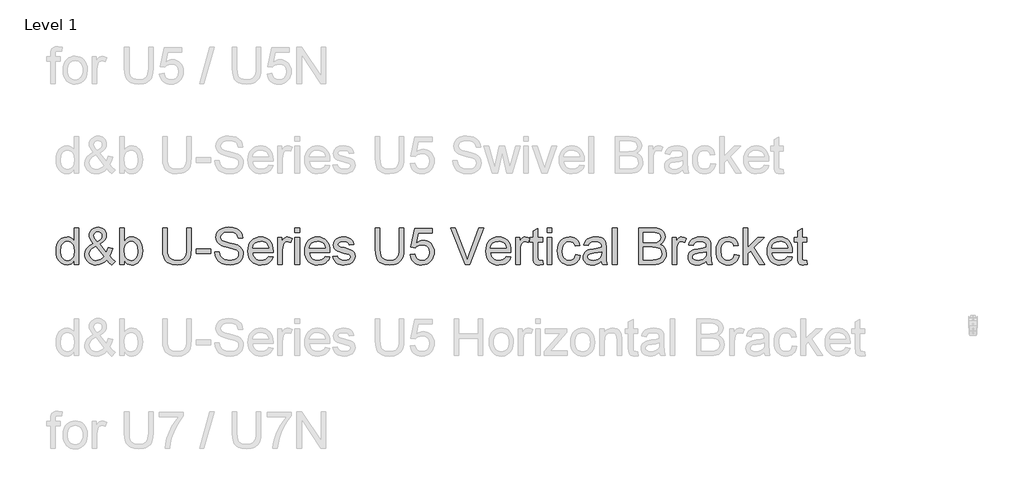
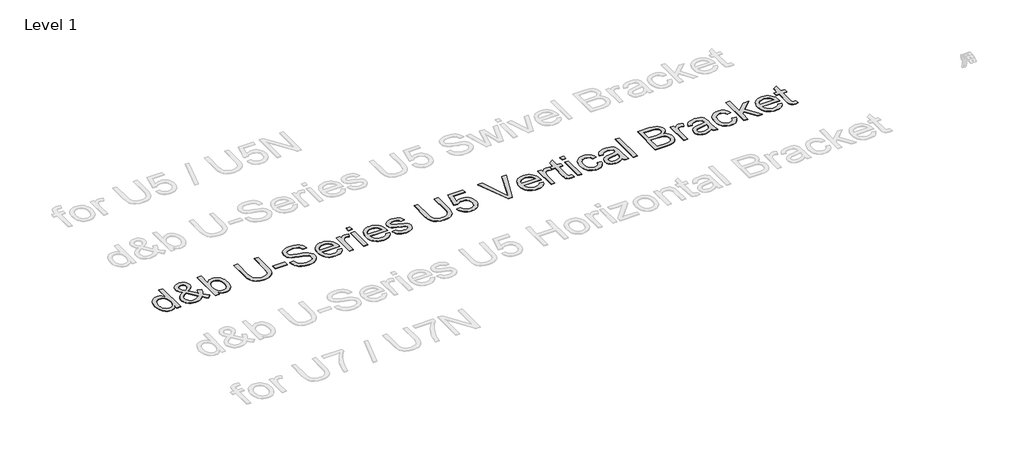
# One storey, part 7 of 29: 1 proxy.
"""IFC4 building model written with IfcOpenShell, lengths in millimetres."""

from ifc_helpers import new_model, si_unit, origin, origin_with_axes, place, context, project, spatial, polyline, outline, extrude, element, save

model = new_model("IFC4")

# Units and contexts
model_context = context("Model", 3, world=origin())
ifc_project = project(units=[si_unit("LENGTHUNIT", "METRE", prefix="MILLI")], contexts=[model_context])

# Site, building, storey
site = spatial("IfcSite", under=ifc_project)
building = spatial("IfcBuilding", under=site)
storey = spatial("IfcBuildingStorey", under=building, Name="Level 1", Elevation=0.0)

# Proxy
placement = place(None, origin())
element("IfcBuildingElementProxy", 1, Name="400mm Arial", ObjectType="400mm Arial", at=placement, inside=storey, context=model_context, shape_type="SweptSolid", body=[
    extrude(outline(polyline([(-20788.4119982, -4835.6363385), (-20788.4119982, -4788.2531375), (-20803.4399777, -4811.7301402), (-20821.6440051, -4828.4994278), (-20843.0240804, -4838.5610004), (-20867.5802036, -4841.9148579), (-20900.051921, -4837.0588156), (-20929.7767862, -4822.4906885), (-20954.9399147, -4799.2282837), (-20973.7264219, -4768.2894079), (-20985.4250694, -4730.9248599), (-20989.3246185, -4688.3854386), (-20985.7316377, -4646.3733147), (-20974.9526952, -4608.4324183), (-20957.0000539, -4576.7209903), (-20931.8859763, -4553.3972718), (-20901.5111863, -4539.049874), (-20867.7764073, -4534.2674081), (-20843.20189, -4537.6887106), (-20821.4723268, -4547.9526183), (-20803.0537016, -4563.6857049), (-20788.4119982, -4583.5145445), (-20788.4119982, -4433.8110979), (-20738.1838431, -4433.8110979), (-20738.1838431, -4835.6363385), (-20788.4119982, -4835.6363385)]), holes=[polyline([(-20939.0964634, -4688.1892348), (-20937.6801177, -4712.5460886), (-20933.4310807, -4733.6226612), (-20926.3493523, -4751.4189528), (-20916.4349325, -4765.9349632), (-20891.7377879, -4785.2487679), (-20877.8625053, -4790.0772191), (-20862.9694159, -4791.6867028), (-20848.0058157, -4790.1507955), (-20834.2133066, -4785.5430735), (-20810.1415614, -4767.1121855), (-20800.6348775, -4753.2031804), (-20793.844389, -4736.0506824), (-20788.4119982, -4692.0152076), (-20793.9424909, -4643.8717172), (-20800.8556067, -4625.336596), (-20810.5339688, -4610.4925575), (-20822.235682, -4599.1188724), (-20835.2188507, -4590.9948117), (-20849.4834751, -4586.1203753), (-20865.0295551, -4584.4955631), (-20880.2169501, -4586.0559959), (-20894.0922327, -4590.7372943), (-20906.6554028, -4598.5394583), (-20917.9064605, -4609.4624879), (-20927.1770868, -4623.7455063), (-20933.7989627, -4641.627637), (-20939.0964634, -4688.1892348)])]), origin_with_axes(), (0.0, 0.0, 1.0), 5.0),
    extrude(outline(polyline([(-20432.4003287, -4785.9967946), (-20457.9313392, -4810.4609473), (-20485.6696416, -4827.9353421), (-20515.664287, -4838.4199789), (-20547.9643262, -4841.9148579), (-20577.2722584, -4839.3274212), (-20603.3918801, -4831.5651111), (-20626.3231911, -4818.6279276), (-20646.0661915, -4800.5158707), (-20658.8991418, -4783.1457092), (-20668.0655348, -4764.7822662), (-20673.5653707, -4745.4255419), (-20675.3986493, -4725.0755362), (-20669.5002746, -4689.881492), (-20651.8051507, -4658.2681659), (-20622.3868538, -4630.2600833), (-20581.3189604, -4605.8817698), (-20603.2324646, -4577.5303307), (-20616.3903773, -4555.0650035), (-20622.975465, -4535.8860888), (-20625.1704942, -4517.3938872), (-20623.4414488, -4499.8397847), (-20618.2543127, -4483.4751673), (-20609.6090858, -4468.300035), (-20597.5057682, -4454.3143878), (-20582.784357, -4442.5973462), (-20566.2848495, -4434.2280308), (-20548.0072457, -4429.2064416), (-20527.9515456, -4427.5325785), (-20508.8032878, -4429.1328652), (-20491.4821772, -4433.9337252), (-20475.9882138, -4441.9351586), (-20462.3213977, -4453.1371654), (-20451.1623105, -4466.5832523), (-20443.1915339, -4481.3169262), (-20438.409068, -4497.3381871), (-20436.8149127, -4514.647035), (-20441.5360649, -4542.6305921), (-20455.6995218, -4568.5049591), (-20479.3052831, -4592.270136), (-20512.353349, -4613.9261227), (-20439.6598668, -4704.4741445), (-20427.2745063, -4678.5997775), (-20417.9793545, -4648.8503868), (-20367.7511994, -4659.7396939), (-20383.2022432, -4706.2645035), (-20403.2640747, -4742.4395664), (-20374.7164319, -4775.7451497), (-20342.6371219, -4803.2627229), (-20380.3082382, -4841.9148579), (-20405.9373505, -4818.4685121), (-20432.4003287, -4785.9967946)]), holes=[polyline([(-20537.7617322, -4582.2392202), (-20511.4949577, -4565.5741659), (-20496.4608468, -4551.091878), (-20489.3975125, -4537.0019976), (-20487.0430678, -4521.5141656), (-20490.1455392, -4503.9661944), (-20499.4529537, -4489.9744158), (-20513.4202068, -4480.8141542), (-20530.5021941, -4477.7607336), (-20547.9520634, -4480.7896287), (-20562.2381476, -4489.876314), (-20571.7662912, -4503.3285323), (-20574.9423391, -4519.4540264), (-20570.6258571, -4537.8481261), (-20557.578309, -4558.3023651), (-20537.7617322, -4582.2392202)]), polyline([(-20466.0492686, -4749.7972063), (-20555.7143735, -4637.8629779), (-20589.9641873, -4659.7151684), (-20610.8966728, -4679.9486782), (-20621.6020389, -4699.2747456), (-20625.1704942, -4718.4046094), (-20620.2899264, -4742.0962099), (-20605.648223, -4766.6707271), (-20594.8692805, -4777.6152165), (-20582.0547244, -4785.4327089), (-20567.2045545, -4790.1232043), (-20550.3187709, -4791.6867028), (-20527.5959264, -4788.7681723), (-20504.1618433, -4780.0125808), (-20482.7388484, -4766.6216762), (-20466.0492686, -4749.7972063)])]), origin_with_axes(), (0.0, 0.0, 1.0), 5.0),
    extrude(outline(polyline([(-20242.1808118, -4835.6363385), (-20292.4089668, -4835.6363385), (-20292.4089668, -4433.8110979), (-20242.1808118, -4433.8110979), (-20242.1808118, -4582.8278314), (-20225.6629102, -4561.5826462), (-20207.011293, -4546.4075139), (-20186.2259603, -4537.3024345), (-20163.306912, -4534.2674081), (-20137.432545, -4537.0019976), (-20112.9806551, -4545.2057661), (-20091.3491937, -4558.3636787), (-20073.9361126, -4575.9607008), (-20060.2876906, -4597.8251541), (-20049.9502065, -4623.7853602), (-20043.4386952, -4652.7621987), (-20041.2681915, -4683.676549), (-20043.5153373, -4719.3488398), (-20050.2567749, -4750.729174), (-20061.4925041, -4777.8175516), (-20077.2225251, -4800.6139726), (-20096.1040685, -4818.6831099), (-20116.7943651, -4831.5896366), (-20139.2934148, -4839.3335526), (-20163.6012176, -4841.9148579), (-20187.274424, -4838.5855258), (-20208.2620918, -4828.5975297), (-20226.5642211, -4811.9508694), (-20242.1808118, -4788.645545), (-20242.1808118, -4835.6363385)]), holes=[polyline([(-20242.1808118, -4686.0309938), (-20238.7472465, -4727.9204903), (-20228.4465506, -4756.2719294), (-20216.2757879, -4771.7658928), (-20202.1307252, -4782.8330095), (-20186.0113625, -4789.4732795), (-20167.9176997, -4791.6867028), (-20152.8958515, -4790.0557593), (-20138.9285984, -4785.1629288), (-20126.0159404, -4777.0082112), (-20114.1578774, -4765.5916066), (-20104.2434577, -4750.9437719), (-20097.1617293, -4733.0953637), (-20092.9126922, -4712.0463822), (-20091.4963465, -4687.7968274), (-20096.9287373, -4641.8361035), (-20103.7192258, -4624.0428776), (-20113.2259097, -4609.7077425), (-20124.6578427, -4598.677414), (-20137.2240785, -4590.798608), (-20150.9246172, -4586.0713243), (-20165.7594586, -4584.4955631), (-20180.7813068, -4586.1265066), (-20194.7485599, -4591.0193372), (-20207.6612179, -4599.1740547), (-20219.5192809, -4610.5906593), (-20229.4337006, -4625.0913413), (-20236.515429, -4642.498291), (-20240.7644661, -4662.8115085), (-20242.1808118, -4686.0309938)])]), origin_with_axes(), (0.0, 0.0, 1.0), 5.0),
    extrude(outline(polyline([(-19557.8221989, -4433.8110979), (-19507.5940438, -4433.8110979), (-19507.5940438, -4665.6258058), (-19511.0030836, -4719.9129256), (-19521.2302031, -4761.7165829), (-19529.4155775, -4778.6698116), (-19540.3355414, -4793.9675712), (-19570.3792376, -4819.5966835), (-19589.5213641, -4829.3608848), (-19611.4348683, -4836.3353143), (-19663.5760097, -4841.9148579), (-19714.576717, -4837.0588156), (-19755.3503048, -4822.4906885), (-19771.9049946, -4811.6902863), (-19785.9090359, -4798.7132489), (-19797.3624287, -4783.5595764), (-19806.2651729, -4766.2292688), (-19817.706303, -4722.6597778), (-19821.520013, -4665.6258058), (-19821.520013, -4433.8110979), (-19771.2918579, -4433.8110979), (-19771.2918579, -4663.8599722), (-19768.8147858, -4708.999093), (-19761.3835695, -4740.4284782), (-19747.9190885, -4762.1948295), (-19727.3422222, -4778.3448491), (-19700.5113621, -4788.3512394), (-19668.2848993, -4791.6867028), (-19640.6017791, -4790.0373652), (-19617.1983529, -4785.0893524), (-19598.0746205, -4776.8426643), (-19583.230582, -4765.297301), (-19572.1144144, -4749.0614423), (-19564.1742947, -4726.7432679), (-19559.4102228, -4698.3427779), (-19557.8221989, -4663.8599722), (-19557.8221989, -4433.8110979)])), origin_with_axes(), (0.0, 0.0, 1.0), 5.0),
    extrude(outline(polyline([(-19451.0873693, -4716.3444702), (-19451.0873693, -4666.1163151), (-19294.1243847, -4666.1163151), (-19294.1243847, -4716.3444702), (-19451.0873693, -4716.3444702)])), origin_with_axes(), (0.0, 0.0, 1.0), 5.0),
    extrude(outline(polyline([(-19250.174749, -4697.5089121), (-19199.946594, -4697.5089121), (-19194.1831094, -4725.3821046), (-19183.7597862, -4747.7861181), (-19167.499402, -4765.5670812), (-19144.2247344, -4779.5711224), (-19115.7751935, -4788.6578077), (-19083.9901891, -4791.6867028), (-19056.006632, -4789.3935717), (-19031.5056911, -4782.5141784), (-19011.6523261, -4771.6248713), (-18997.6114966, -4757.301999), (-18989.2605753, -4740.8576738), (-18986.4769349, -4723.6040082), (-18988.5615995, -4706.7918011), (-18994.8155934, -4692.2604623), (-19007.519785, -4679.862839), (-19028.9550426, -4669.4517786), (-19102.0899832, -4650.2728639), (-19150.0985836, -4637.580935), (-19180.8167302, -4625.5021429), (-19205.8204431, -4608.6040966), (-19223.5400926, -4588.1253322), (-19234.0983058, -4564.5073081), (-19237.6177103, -4538.1914827), (-19233.26444, -4508.7731858), (-19220.2046292, -4481.3414517), (-19198.7816343, -4458.0913096), (-19169.338812, -4441.2177887), (-19133.997615, -4430.9538811), (-19094.8794961, -4427.5325785), (-19052.4994903, -4431.1132966), (-19015.4169852, -4441.8554509), (-18984.956356, -4459.5383121), (-18962.4419779, -4483.9411511), (-18948.1926819, -4513.543389), (-18942.5272992, -4546.8244468), (-18992.7554543, -4546.8244468), (-19001.9770296, -4516.854327), (-19010.3402136, -4504.996264), (-19021.2049952, -4495.2228656), (-19051.2486915, -4482.1262666), (-19092.9174588, -4477.7607336), (-19135.5672448, -4482.0772157), (-19151.8705486, -4487.4728183), (-19164.8261262, -4495.0266619), (-19181.7486979, -4514.0829493), (-19187.3895552, -4536.7199547), (-19183.3919042, -4556.0214967), (-19171.3989511, -4571.5461169), (-19143.047512, -4585.4275309), (-19089.3857917, -4599.6032504), (-19034.0072887, -4613.0677314), (-19000.5055016, -4624.8154298), (-18971.8720197, -4643.0378513), (-18951.8960273, -4665.5277039), (-18940.1605917, -4692.0397331), (-18936.2487798, -4722.328684), (-18940.7492029, -4753.2920853), (-18954.2504721, -4782.4160765), (-18976.2007645, -4807.4811031), (-19006.048257, -4826.2676104), (-19041.941277, -4838.003046), (-19082.0281518, -4841.9148579), (-19131.2385, -4837.6964777), (-19171.7423077, -4825.041337), (-19204.0055586, -4803.9003851), (-19228.4942368, -4774.2245708), (-19244.2150607, -4738.0740334), (-19250.174749, -4697.5089121)])), origin_with_axes(), (0.0, 0.0, 1.0), 5.0),
    extrude(outline(polyline([(-18660.5825381, -4747.7370671), (-18611.3354017, -4754.0155865), (-18618.8861796, -4773.7401928), (-18629.0795766, -4791.1226171), (-18641.9155925, -4806.1628593), (-18657.3942275, -4818.8609195), (-18675.3560659, -4828.9470176), (-18695.6416922, -4836.1513733), (-18743.1843087, -4841.9148579), (-18774.3500451, -4839.4285887), (-18802.1190044, -4831.9697813), (-18826.4911866, -4819.5384355), (-18847.4665916, -4802.1345515), (-18864.3339811, -4780.2425071), (-18876.3821165, -4754.3466803), (-18883.6109977, -4724.4470712), (-18886.0206247, -4690.5436796), (-18883.5864722, -4655.4906568), (-18876.2840146, -4624.5947006), (-18864.1132519, -4597.8558109), (-18847.0741842, -4575.2739878), (-18826.1539614, -4557.3336092), (-18802.3397336, -4544.519053), (-18775.6315007, -4536.8303193), (-18746.0292628, -4534.2674081), (-18717.3804525, -4536.8241879), (-18691.472363, -4544.4945275), (-18668.3049943, -4557.2784269), (-18647.8783465, -4575.1758859), (-18631.2040951, -4597.7086581), (-18619.2939155, -4624.3984969), (-18612.1478077, -4655.2454022), (-18609.7657718, -4690.249374), (-18610.0600774, -4703.7874314), (-18835.7924697, -4703.7874314), (-18832.8831362, -4723.8308688), (-18827.0981918, -4741.3849713), (-18818.4376365, -4756.449739), (-18806.9014703, -4769.0251719), (-18793.1273553, -4778.9395917), (-18777.7529536, -4786.0213201), (-18742.2032901, -4791.6867028), (-18715.4705318, -4789.0624779), (-18692.9561537, -4781.1898032), (-18674.6601558, -4767.5781694), (-18660.5825381, -4747.7370671)]), holes=[polyline([(-18835.7924697, -4653.5592764), (-18659.9939269, -4653.5592764), (-18666.7874811, -4627.0227218), (-18680.1048093, -4608.0400108), (-18693.8022823, -4597.739315), (-18709.3882161, -4590.3816751), (-18726.8626109, -4585.9670911), (-18746.2254666, -4584.4955631), (-18780.0828729, -4589.1921899), (-18808.0786927, -4603.2820704), (-18827.5396502, -4625.2446255), (-18835.7924697, -4653.5592764)])]), origin_with_axes(), (0.0, 0.0, 1.0), 5.0),
    extrude(outline(polyline([(-18559.5376168, -4835.6363385), (-18559.5376168, -4540.5459274), (-18515.5879811, -4540.5459274), (-18515.5879811, -4584.2012575), (-18499.3521223, -4558.8909763), (-18484.3915879, -4543.9794927), (-18469.3820025, -4536.6954292), (-18452.998991, -4534.2674081), (-18427.9830153, -4538.1424317), (-18402.5746321, -4549.7675028), (-18419.3500511, -4594.796259), (-18437.0083869, -4587.0707371), (-18454.6667227, -4584.4955631), (-18469.6640453, -4586.9726352), (-18483.0672127, -4594.4038515), (-18493.8952061, -4606.2251263), (-18501.1670069, -4621.8723738), (-18507.273848, -4649.9295073), (-18509.3094617, -4680.5372893), (-18509.3094617, -4835.6363385), (-18559.5376168, -4835.6363385)])), origin_with_axes(), (0.0, 0.0, 1.0), 5.0),
    extrude(outline(polyline([(-18371.1820352, -4484.039253), (-18371.1820352, -4433.8110979), (-18320.9538802, -4433.8110979), (-18320.9538802, -4484.039253), (-18371.1820352, -4484.039253)])), origin_with_axes(), (0.0, 0.0, 1.0), 5.0),
    extrude(outline(polyline([(-18371.1820352, -4835.6363385), (-18371.1820352, -4540.5459274), (-18320.9538802, -4540.5459274), (-18320.9538802, -4835.6363385), (-18371.1820352, -4835.6363385)])), origin_with_axes(), (0.0, 0.0, 1.0), 5.0),
    extrude(outline(polyline([(-18039.009119, -4747.7370671), (-17989.7619826, -4754.0155865), (-17997.3127606, -4773.7401928), (-18007.5061575, -4791.1226171), (-18020.3421735, -4806.1628593), (-18035.8208084, -4818.8609195), (-18053.7826468, -4828.9470176), (-18074.0682732, -4836.1513733), (-18121.6108897, -4841.9148579), (-18152.7766261, -4839.4285887), (-18180.5455853, -4831.9697813), (-18204.9177675, -4819.5384355), (-18225.8931726, -4802.1345515), (-18242.7605621, -4780.2425071), (-18254.8086974, -4754.3466803), (-18262.0375786, -4724.4470712), (-18264.4472057, -4690.5436796), (-18262.0130532, -4655.4906568), (-18254.7105956, -4624.5947006), (-18242.5398329, -4597.8558109), (-18225.5007651, -4575.2739878), (-18204.5805423, -4557.3336092), (-18180.7663145, -4544.519053), (-18154.0580817, -4536.8303193), (-18124.4558438, -4534.2674081), (-18095.8070334, -4536.8241879), (-18069.8989439, -4544.4945275), (-18046.7315753, -4557.2784269), (-18026.3049275, -4575.1758859), (-18009.630676, -4597.7086581), (-17997.7204965, -4624.3984969), (-17990.5743887, -4655.2454022), (-17988.1923528, -4690.249374), (-17988.4866584, -4703.7874314), (-18214.2190506, -4703.7874314), (-18211.3097172, -4723.8308688), (-18205.5247728, -4741.3849713), (-18196.8642175, -4756.449739), (-18185.3280513, -4769.0251719), (-18171.5539362, -4778.9395917), (-18156.1795345, -4786.0213201), (-18120.629871, -4791.6867028), (-18093.8971127, -4789.0624779), (-18071.3827346, -4781.1898032), (-18053.0867367, -4767.5781694), (-18039.009119, -4747.7370671)]), holes=[polyline([(-18214.2190506, -4653.5592764), (-18038.4205079, -4653.5592764), (-18045.214062, -4627.0227218), (-18058.5313903, -4608.0400108), (-18072.2288632, -4597.739315), (-18087.8147971, -4590.3816751), (-18105.2891918, -4585.9670911), (-18124.6520475, -4584.4955631), (-18158.5094538, -4589.1921899), (-18186.5052736, -4603.2820704), (-18205.9662312, -4625.2446255), (-18214.2190506, -4653.5592764)])]), origin_with_axes(), (0.0, 0.0, 1.0), 5.0),
    extrude(outline(polyline([(-17956.7997559, -4747.7370671), (-17906.5716008, -4741.4585477), (-17898.6498752, -4762.9428563), (-17883.3214587, -4778.7372566), (-17860.4882495, -4788.4493413), (-17830.0521458, -4791.6867028), (-17799.983924, -4788.7191214), (-17778.8429721, -4779.8163771), (-17766.3349842, -4766.9159818), (-17762.1656549, -4751.9554473), (-17766.3595097, -4739.1531539), (-17778.9410739, -4729.3920183), (-17830.640757, -4715.069146), (-17906.2772952, -4690.4946287), (-17925.4194217, -4678.1460564), (-17939.2885729, -4661.7998331), (-17947.7130706, -4642.498291), (-17950.5212365, -4621.2837627), (-17948.2648936, -4601.8228051), (-17941.4958649, -4583.857901), (-17930.827287, -4568.1002889), (-17916.8722966, -4555.2612073), (-17884.9401395, -4540.3987746), (-17864.0567049, -4535.8002497), (-17841.7262678, -4534.2674081), (-17809.0338211, -4536.7322174), (-17780.6088056, -4544.1266455), (-17757.751071, -4555.7271911), (-17741.7604669, -4570.8103529), (-17731.1654655, -4590.4920397), (-17724.4945386, -4615.8881601), (-17774.7226937, -4622.1666794), (-17781.0625268, -4606.3600164), (-17793.6073028, -4594.4529025), (-17812.4796492, -4586.984898), (-17837.8021932, -4584.4955631), (-17866.6441416, -4586.8745334), (-17885.8721072, -4594.0114441), (-17896.6878378, -4604.3121399), (-17900.2930814, -4616.1824657), (-17894.3088676, -4630.7996436), (-17875.5714113, -4641.8851544), (-17832.3084887, -4652.5782577), (-17758.5849369, -4676.2208073), (-17739.1117166, -4687.5270473), (-17724.3473858, -4703.0026165), (-17715.0399714, -4722.696566), (-17711.9374999, -4746.6579466), (-17715.5795316, -4771.4286676), (-17726.5056269, -4794.7278606), (-17744.2988527, -4814.7283785), (-17768.5422762, -4829.6030738), (-17797.825683, -4838.8369119), (-17830.7388588, -4841.9148579), (-17857.7720541, -4840.4310672), (-17881.3839468, -4835.979695), (-17901.574537, -4828.5607415), (-17918.3438246, -4818.1742065), (-17932.0412976, -4804.869141), (-17943.0164438, -4788.6945959), (-17951.2692632, -4769.6505713), (-17956.7997559, -4747.7370671)])), origin_with_axes(), (0.0, 0.0, 1.0), 5.0),
    extrude(outline(polyline([(-17228.4915073, -4433.8110979), (-17178.2633522, -4433.8110979), (-17178.2633522, -4665.6258058), (-17181.672392, -4719.9129256), (-17191.8995115, -4761.7165829), (-17200.0848859, -4778.6698116), (-17211.0048498, -4793.9675712), (-17241.048546, -4819.5966835), (-17260.1906725, -4829.3608848), (-17282.1041767, -4836.3353143), (-17334.2453182, -4841.9148579), (-17385.2460254, -4837.0588156), (-17426.0196132, -4822.4906885), (-17442.574303, -4811.6902863), (-17456.5783443, -4798.7132489), (-17468.0317371, -4783.5595764), (-17476.9344814, -4766.2292688), (-17488.3756114, -4722.6597778), (-17492.1893214, -4665.6258058), (-17492.1893214, -4433.8110979), (-17441.9611663, -4433.8110979), (-17441.9611663, -4663.8599722), (-17439.4840942, -4708.999093), (-17432.0528779, -4740.4284782), (-17418.5883969, -4762.1948295), (-17398.0115307, -4778.3448491), (-17371.1806705, -4788.3512394), (-17338.9542077, -4791.6867028), (-17311.2710876, -4790.0373652), (-17287.8676613, -4785.0893524), (-17268.7439289, -4776.8426643), (-17253.8998904, -4765.297301), (-17242.7837228, -4749.0614423), (-17234.8436031, -4726.7432679), (-17230.0795312, -4698.3427779), (-17228.4915073, -4663.8599722), (-17228.4915073, -4433.8110979)])), origin_with_axes(), (0.0, 0.0, 1.0), 5.0),
    extrude(outline(polyline([(-17109.199639, -4728.901509), (-17058.9714839, -4722.6229896), (-17049.7499086, -4752.7770505), (-17033.6612026, -4774.3717236), (-17010.7789425, -4787.357958), (-16981.1767046, -4791.6867028), (-16962.0468409, -4790.1814523), (-16945.1733201, -4785.6657008), (-16930.5561421, -4778.1394483), (-16918.1953071, -4767.6026949), (-16908.3667264, -4754.5766066), (-16901.3463117, -4739.5823496), (-16895.7299799, -4703.6893296), (-16900.9906924, -4669.8932369), (-16907.5665831, -4655.9750348), (-16916.77283, -4644.0433954), (-16928.6400901, -4634.4723322), (-16943.19902, -4627.6358584), (-16980.3918897, -4622.1666794), (-17004.7579405, -4624.3494459), (-17024.4886782, -4630.8977455), (-17040.2462903, -4640.9286612), (-17052.6929645, -4653.5592764), (-17102.9211196, -4647.280757), (-17058.9714839, -4440.0896173), (-16864.337383, -4440.0896173), (-16864.337383, -4490.3177724), (-17018.3573116, -4490.3177724), (-17039.939722, -4600.9766765), (-17022.2139412, -4588.272485), (-17004.0589647, -4579.1980624), (-16985.4747926, -4573.7534089), (-16966.4614248, -4571.9385244), (-16941.9972722, -4574.1887359), (-16919.5196823, -4580.9393705), (-16899.0286551, -4592.1904282), (-16880.5241908, -4607.941909), (-16865.2019057, -4627.2311882), (-16854.2574163, -4649.0956415), (-16847.6907227, -4673.5352687), (-16845.5018248, -4700.5500699), (-16847.4699935, -4726.5715897), (-16853.3744995, -4750.778225), (-16863.2153429, -4773.1699757), (-16876.9925236, -4793.746842), (-16897.8636955, -4814.8203489), (-16922.2174836, -4829.8728539), (-16950.0538879, -4838.9043569), (-16981.3729084, -4841.9148579), (-17007.2932606, -4839.9804117), (-17030.7058839, -4834.1770733), (-17051.6107783, -4824.5048425), (-17070.0079438, -4810.9637194), (-17085.3149004, -4794.2281543), (-17096.9491685, -4774.9725975), (-17104.910748, -4753.1970491), (-17109.199639, -4728.901509)])), origin_with_axes(), (0.0, 0.0, 1.0), 5.0),
    extrude(outline(polyline([(-16507.1484911, -4835.6363385), (-16666.9564298, -4433.8110979), (-16613.1966076, -4433.8110979), (-16506.1674725, -4723.3097026), (-16484.4869602, -4788.5474431), (-16463.1007536, -4723.3097026), (-16355.7773128, -4433.8110979), (-16302.1155925, -4433.8110979), (-16455.3507062, -4835.6363385), (-16507.1484911, -4835.6363385)])), origin_with_axes(), (0.0, 0.0, 1.0), 5.0),
    extrude(outline(polyline([(-16054.9969936, -4747.7370671), (-16005.7498572, -4754.0155865), (-16013.3006351, -4773.7401928), (-16023.4940321, -4791.1226171), (-16036.330048, -4806.1628593), (-16051.808683, -4818.8609195), (-16069.7705214, -4828.9470176), (-16090.0561477, -4836.1513733), (-16137.5987642, -4841.9148579), (-16168.7645006, -4839.4285887), (-16196.5334599, -4831.9697813), (-16220.9056421, -4819.5384355), (-16241.8810471, -4802.1345515), (-16258.7484366, -4780.2425071), (-16270.796572, -4754.3466803), (-16278.0254532, -4724.4470712), (-16280.4350802, -4690.5436796), (-16278.0009277, -4655.4906568), (-16270.6984701, -4624.5947006), (-16258.5277074, -4597.8558109), (-16241.4886397, -4575.2739878), (-16220.5684169, -4557.3336092), (-16196.7541891, -4544.519053), (-16170.0459562, -4536.8303193), (-16140.4437183, -4534.2674081), (-16111.794908, -4536.8241879), (-16085.8868185, -4544.4945275), (-16062.7194498, -4557.2784269), (-16042.292802, -4575.1758859), (-16025.6185506, -4597.7086581), (-16013.708371, -4624.3984969), (-16006.5622632, -4655.2454022), (-16004.1802273, -4690.249374), (-16004.4745329, -4703.7874314), (-16230.2069252, -4703.7874314), (-16227.2975917, -4723.8308688), (-16221.5126473, -4741.3849713), (-16212.852092, -4756.449739), (-16201.3159258, -4769.0251719), (-16187.5418108, -4778.9395917), (-16172.1674091, -4786.0213201), (-16136.6177456, -4791.6867028), (-16109.8849873, -4789.0624779), (-16087.3706092, -4781.1898032), (-16069.0746113, -4767.5781694), (-16054.9969936, -4747.7370671)]), holes=[polyline([(-16230.2069252, -4653.5592764), (-16054.4083824, -4653.5592764), (-16061.2019366, -4627.0227218), (-16074.5192648, -4608.0400108), (-16088.2167378, -4597.739315), (-16103.8026716, -4590.3816751), (-16121.2770664, -4585.9670911), (-16140.6399221, -4584.4955631), (-16174.4973284, -4589.1921899), (-16202.4931482, -4603.2820704), (-16221.9541057, -4625.2446255), (-16230.2069252, -4653.5592764)])]), origin_with_axes(), (0.0, 0.0, 1.0), 5.0),
    extrude(outline(polyline([(-15953.9520723, -4835.6363385), (-15953.9520723, -4540.5459274), (-15910.0024366, -4540.5459274), (-15910.0024366, -4584.2012575), (-15893.7665778, -4558.8909763), (-15878.8060434, -4543.9794927), (-15863.796458, -4536.6954292), (-15847.4134464, -4534.2674081), (-15822.3974708, -4538.1424317), (-15796.9890876, -4549.7675028), (-15813.7645066, -4594.796259), (-15831.4228424, -4587.0707371), (-15849.0811782, -4584.4955631), (-15864.0785008, -4586.9726352), (-15877.4816682, -4594.4038515), (-15888.3096616, -4606.2251263), (-15895.5814623, -4621.8723738), (-15901.6883035, -4649.9295073), (-15903.7239172, -4680.5372893), (-15903.7239172, -4835.6363385), (-15953.9520723, -4835.6363385)])), origin_with_axes(), (0.0, 0.0, 1.0), 5.0),
    extrude(outline(polyline([(-15658.8616612, -4793.746842), (-15652.5831418, -4837.1078665), (-15690.1561562, -4841.9148579), (-15714.2646897, -4839.8301933), (-15732.2418565, -4833.5761993), (-15744.9460481, -4823.9376911), (-15753.2356557, -4811.6994834), (-15757.7973924, -4790.6811587), (-15759.3179713, -4754.7022996), (-15759.3179713, -4590.7740825), (-15796.9890876, -4590.7740825), (-15796.9890876, -4540.5459274), (-15759.3179713, -4540.5459274), (-15759.3179713, -4468.8334639), (-15709.0898163, -4439.3048024), (-15709.0898163, -4540.5459274), (-15658.8616612, -4540.5459274), (-15658.8616612, -4590.7740825), (-15709.0898163, -4590.7740825), (-15709.0898163, -4753.2307716), (-15706.4410659, -4779.1296641), (-15697.8571527, -4788.3021885), (-15680.7383772, -4791.6867028), (-15658.8616612, -4793.746842)])), origin_with_axes(), (0.0, 0.0, 1.0), 5.0),
    extrude(outline(polyline([(-15608.6335061, -4484.039253), (-15608.6335061, -4433.8110979), (-15558.405351, -4433.8110979), (-15558.405351, -4484.039253), (-15608.6335061, -4484.039253)])), origin_with_axes(), (0.0, 0.0, 1.0), 5.0),
    extrude(outline(polyline([(-15608.6335061, -4835.6363385), (-15608.6335061, -4540.5459274), (-15558.405351, -4540.5459274), (-15558.405351, -4835.6363385), (-15608.6335061, -4835.6363385)])), origin_with_axes(), (0.0, 0.0, 1.0), 5.0),
    extrude(outline(polyline([(-15294.7075369, -4728.901509), (-15244.4793818, -4735.1800284), (-15249.9424294, -4758.8808259), (-15258.4834231, -4779.8531653), (-15270.1023628, -4798.0970466), (-15284.7992485, -4813.6124697), (-15301.9548122, -4825.9947646), (-15320.9497859, -4834.8392609), (-15341.7841695, -4840.1459586), (-15364.4579632, -4841.9148579), (-15392.628527, -4839.4469828), (-15417.8866916, -4832.0433577), (-15440.2324571, -4819.7039824), (-15459.6658235, -4802.4288571), (-15475.3958445, -4780.542944), (-15486.6315738, -4754.3712058), (-15493.3730113, -4723.9136423), (-15495.6201572, -4689.1702535), (-15491.7819217, -4644.4725911), (-15480.2672153, -4605.734617), (-15460.8920968, -4574.4523847), (-15433.4726255, -4552.1219476), (-15400.6698142, -4538.7310429), (-15365.1446762, -4534.2674081), (-15342.8602244, -4535.8002497), (-15322.7033567, -4540.3987746), (-15304.6740733, -4548.0629829), (-15288.772374, -4558.7928744), (-15275.2680391, -4572.3431946), (-15264.4308487, -4588.4686887), (-15256.2608027, -4607.1693568), (-15250.7579012, -4628.4451988), (-15300.9860563, -4634.7237182), (-15310.097267, -4612.810214), (-15324.2852493, -4597.1016528), (-15342.7651882, -4587.6470856), (-15364.7522688, -4584.4955631), (-15381.8189277, -4586.0467989), (-15397.2117235, -4590.7005061), (-15410.9306562, -4598.4566849), (-15422.9757259, -4609.3153351), (-15432.7828467, -4623.5278428), (-15439.7879331, -4641.3455941), (-15443.9909849, -4662.768589), (-15445.3920021, -4687.7968274), (-15439.9105604, -4734.87346), (-15433.0587582, -4752.810773), (-15423.4662352, -4767.0140837), (-15411.6602888, -4777.8083546), (-15398.1682167, -4785.518548), (-15382.9900187, -4790.1446641), (-15366.1256949, -4791.6867028), (-15340.1164378, -4787.8362046), (-15318.7915448, -4776.28471), (-15303.2791874, -4756.7379133), (-15294.7075369, -4728.901509)])), origin_with_axes(), (0.0, 0.0, 1.0), 5.0),
    extrude(outline(polyline([(-15012.1741646, -4797.9652222), (-15036.1723334, -4818.5420885), (-15060.8817408, -4832.0065695), (-15086.8664724, -4839.4377858), (-15114.6906139, -4841.9148579), (-15137.0547735, -4840.4249358), (-15156.6659496, -4835.9551696), (-15173.524142, -4828.5055592), (-15187.6293508, -4818.0761046), (-15198.7669782, -4805.3289935), (-15206.7224264, -4790.9264134), (-15211.4956953, -4774.8683643), (-15213.0867849, -4757.1548462), (-15210.6832892, -4736.3327253), (-15203.4728021, -4717.4235907), (-15192.3505031, -4701.2367829), (-15178.2115718, -4688.5816423), (-15161.5955683, -4679.0167104), (-15143.042053, -4672.1005289), (-15099.5829267, -4664.5466853), (-15048.2266001, -4656.6004342), (-15012.4684702, -4647.280757), (-15012.1741646, -4636.0971443), (-15015.6322554, -4613.6808681), (-15026.0065276, -4599.0146392), (-15049.2076188, -4588.1253322), (-15081.5321834, -4584.4955631), (-15111.4532524, -4586.9113216), (-15132.3489497, -4594.1585969), (-15146.5982456, -4607.5617642), (-15156.5801104, -4628.4451988), (-15206.8082655, -4622.1666794), (-15198.0894622, -4594.6981571), (-15185.0787023, -4573.1157468), (-15166.5619752, -4556.6101079), (-15141.3252704, -4544.3719002), (-15110.459971, -4536.7935311), (-15075.0574603, -4534.2674081), (-15041.1019522, -4536.4992255), (-15014.1852528, -4543.1946778), (-14993.8904294, -4553.2623817), (-14979.800549, -4565.610954), (-14970.4563463, -4580.8780568), (-14964.3985562, -4599.7013523), (-14961.9460095, -4643.650988), (-14961.9460095, -4706.1418762), (-14959.395361, -4793.4034855), (-14949.3889708, -4835.6363385), (-14999.6171258, -4835.6363385), (-15007.6614788, -4818.1742065), (-15012.1741646, -4797.9652222)]), holes=[polyline([(-15012.1741646, -4697.5089121), (-15045.9212063, -4705.8720961), (-15093.2063054, -4712.9109049), (-15136.4201771, -4721.0533597), (-15147.6651034, -4726.6206406), (-15155.9914992, -4734.2971116), (-15161.1418472, -4743.4941615), (-15162.8586298, -4753.6231791), (-15159.1184962, -4768.5591881), (-15147.8980954, -4780.7973958), (-15129.4426819, -4788.9643761), (-15103.9975106, -4791.6867028), (-15077.0194976, -4788.6823332), (-15053.1807443, -4779.6692243), (-15033.8546768, -4766.3886843), (-15020.4147213, -4750.5820212), (-15014.455033, -4734.2971116), (-15012.4684702, -4711.7336825), (-15012.1741646, -4697.5089121)])]), origin_with_axes(), (0.0, 0.0, 1.0), 5.0),
    extrude(outline(polyline([(-14892.8822963, -4835.6363385), (-14892.8822963, -4433.8110979), (-14842.6541412, -4433.8110979), (-14842.6541412, -4835.6363385), (-14892.8822963, -4835.6363385)])), origin_with_axes(), (0.0, 0.0, 1.0), 5.0),
    extrude(outline(polyline([(-14604.0704046, -4835.6363385), (-14604.0704046, -4433.8110979), (-14450.737189, -4433.8110979), (-14408.5656496, -4436.7664166), (-14375.6402111, -4445.6323727), (-14350.4035062, -4460.6296954), (-14331.2981679, -4481.9791138), (-14319.2684267, -4507.0931914), (-14315.2585129, -4533.3844913), (-14318.6307646, -4557.5788638), (-14328.7475194, -4580.3262339), (-14345.6823539, -4600.2286498), (-14369.5088445, -4615.8881601), (-14341.0470408, -4630.7505927), (-14320.0164534, -4653.3630726), (-14307.030219, -4682.2295465), (-14302.7014742, -4715.8539609), (-14305.6567929, -4743.8743062), (-14314.5227489, -4769.8590378), (-14327.754238, -4791.9564829), (-14343.8061558, -4808.314969), (-14363.463317, -4820.1607692), (-14387.5105368, -4828.720157), (-14416.7326299, -4833.9072931), (-14451.9144114, -4835.6363385), (-14604.0704046, -4835.6363385)]), holes=[polyline([(-14553.8422495, -4785.4081834), (-14450.8352909, -4785.4081834), (-14413.556582, -4783.4461461), (-14382.0168323, -4772.5077881), (-14370.4408122, -4763.0777463), (-14361.121135, -4750.1896138), (-14354.9775057, -4734.4197389), (-14352.9296292, -4716.3444702), (-14355.3331249, -4695.350671), (-14362.543612, -4677.2999278), (-14375.137439, -4663.1855219), (-14393.6909543, -4654.0007348), (-14419.9699915, -4648.9607514), (-14455.7403842, -4647.280757), (-14553.8422495, -4647.280757), (-14553.8422495, -4785.4081834)]), polyline([(-14553.8422495, -4597.0526019), (-14462.1170054, -4597.0526019), (-14408.5533869, -4592.7361198), (-14389.8036679, -4585.2926408), (-14376.3269241, -4574.1458163), (-14368.196732, -4559.4673247), (-14365.486668, -4541.4288442), (-14368.012791, -4523.9176613), (-14375.5911601, -4508.6628212), (-14387.8784188, -4496.7557073), (-14404.5312104, -4489.2877028), (-14430.0867464, -4485.3513654), (-14469.0822379, -4484.039253), (-14553.8422495, -4484.039253), (-14553.8422495, -4597.0526019)])]), origin_with_axes(), (0.0, 0.0, 1.0), 5.0),
    extrude(outline(polyline([(-14239.9162803, -4835.6363385), (-14239.9162803, -4540.5459274), (-14195.9666446, -4540.5459274), (-14195.9666446, -4584.2012575), (-14179.7307859, -4558.8909763), (-14164.7702514, -4543.9794927), (-14149.760666, -4536.6954292), (-14133.3776545, -4534.2674081), (-14108.3616788, -4538.1424317), (-14082.9532957, -4549.7675028), (-14099.7287147, -4594.796259), (-14117.3870505, -4587.0707371), (-14135.0453862, -4584.4955631), (-14150.0427089, -4586.9726352), (-14163.4458763, -4594.4038515), (-14174.2738697, -4606.2251263), (-14181.5456704, -4621.8723738), (-14187.6525115, -4649.9295073), (-14189.6881252, -4680.5372893), (-14189.6881252, -4835.6363385), (-14239.9162803, -4835.6363385)])), origin_with_axes(), (0.0, 0.0, 1.0), 5.0),
    extrude(outline(polyline([(-13863.2051173, -4797.9652222), (-13887.2032861, -4818.5420885), (-13911.9126934, -4832.0065695), (-13937.897425, -4839.4377858), (-13965.7215666, -4841.9148579), (-13988.0857262, -4840.4249358), (-14007.6969022, -4835.9551696), (-14024.5550947, -4828.5055592), (-14038.6603035, -4818.0761046), (-14049.7979309, -4805.3289935), (-14057.753379, -4790.9264134), (-14062.5266479, -4774.8683643), (-14064.1177376, -4757.1548462), (-14061.7142419, -4736.3327253), (-14054.5037548, -4717.4235907), (-14043.3814558, -4701.2367829), (-14029.2425244, -4688.5816423), (-14012.626521, -4679.0167104), (-13994.0730057, -4672.1005289), (-13950.6138793, -4664.5466853), (-13899.2575528, -4656.6004342), (-13863.4994229, -4647.280757), (-13863.2051173, -4636.0971443), (-13866.663208, -4613.6808681), (-13877.0374803, -4599.0146392), (-13900.2385714, -4588.1253322), (-13932.5631361, -4584.4955631), (-13962.484205, -4586.9113216), (-13983.3799024, -4594.1585969), (-13997.6291983, -4607.5617642), (-14007.6110631, -4628.4451988), (-14057.8392182, -4622.1666794), (-14049.1204149, -4594.6981571), (-14036.109655, -4573.1157468), (-14017.5929279, -4556.6101079), (-13992.356223, -4544.3719002), (-13961.4909236, -4536.7935311), (-13926.088413, -4534.2674081), (-13892.1329048, -4536.4992255), (-13865.2162055, -4543.1946778), (-13844.9213821, -4553.2623817), (-13830.8315017, -4565.610954), (-13821.487299, -4580.8780568), (-13815.4295088, -4599.7013523), (-13812.9769622, -4643.650988), (-13812.9769622, -4706.1418762), (-13810.4263137, -4793.4034855), (-13800.4199234, -4835.6363385), (-13850.6480785, -4835.6363385), (-13858.6924315, -4818.1742065), (-13863.2051173, -4797.9652222)]), holes=[polyline([(-13863.2051173, -4697.5089121), (-13896.952159, -4705.8720961), (-13944.2372581, -4712.9109049), (-13987.4511298, -4721.0533597), (-13998.6960561, -4726.6206406), (-14007.0224519, -4734.2971116), (-14012.1727998, -4743.4941615), (-14013.8895825, -4753.6231791), (-14010.1494489, -4768.5591881), (-13998.929048, -4780.7973958), (-13980.4736346, -4788.9643761), (-13955.0284633, -4791.6867028), (-13928.0504503, -4788.6823332), (-13904.211697, -4779.6692243), (-13884.8856295, -4766.3886843), (-13871.445674, -4750.5820212), (-13865.4859856, -4734.2971116), (-13863.4994229, -4711.7336825), (-13863.2051173, -4697.5089121)])]), origin_with_axes(), (0.0, 0.0, 1.0), 5.0),
    extrude(outline(polyline([(-13555.5576674, -4728.901509), (-13505.3295124, -4735.1800284), (-13510.79256, -4758.8808259), (-13519.3335536, -4779.8531653), (-13530.9524933, -4798.0970466), (-13545.649379, -4813.6124697), (-13562.8049427, -4825.9947646), (-13581.7999164, -4834.8392609), (-13602.6343001, -4840.1459586), (-13625.3080937, -4841.9148579), (-13653.4786575, -4839.4469828), (-13678.7368221, -4832.0433577), (-13701.0825877, -4819.7039824), (-13720.5159541, -4802.4288571), (-13736.245975, -4780.542944), (-13747.4817043, -4754.3712058), (-13754.2231419, -4723.9136423), (-13756.4702877, -4689.1702535), (-13752.6320522, -4644.4725911), (-13741.1173458, -4605.734617), (-13721.7422274, -4574.4523847), (-13694.322756, -4552.1219476), (-13661.5199448, -4538.7310429), (-13625.9948068, -4534.2674081), (-13603.7103549, -4535.8002497), (-13583.5534873, -4540.3987746), (-13565.5242038, -4548.0629829), (-13549.6225046, -4558.7928744), (-13536.1181697, -4572.3431946), (-13525.2809792, -4588.4686887), (-13517.1109332, -4607.1693568), (-13511.6080317, -4628.4451988), (-13561.8361868, -4634.7237182), (-13570.9473976, -4612.810214), (-13585.1353798, -4597.1016528), (-13603.6153187, -4587.6470856), (-13625.6023993, -4584.4955631), (-13642.6690582, -4586.0467989), (-13658.061854, -4590.7005061), (-13671.7807868, -4598.4566849), (-13683.8258564, -4609.3153351), (-13693.6329773, -4623.5278428), (-13700.6380636, -4641.3455941), (-13704.8411154, -4662.768589), (-13706.2421327, -4687.7968274), (-13700.7606909, -4734.87346), (-13693.9088888, -4752.810773), (-13684.3163657, -4767.0140837), (-13672.5104194, -4777.8083546), (-13659.0183472, -4785.518548), (-13643.8401492, -4790.1446641), (-13626.9758254, -4791.6867028), (-13600.9665684, -4787.8362046), (-13579.6416754, -4776.28471), (-13564.1293179, -4756.7379133), (-13555.5576674, -4728.901509)])), origin_with_axes(), (0.0, 0.0, 1.0), 5.0),
    extrude(outline(polyline([(-13461.3798767, -4835.6363385), (-13461.3798767, -4433.8110979), (-13411.1517216, -4433.8110979), (-13411.1517216, -4649.7333036), (-13298.5307801, -4540.5459274), (-13229.0746594, -4540.5459274), (-13343.1671289, -4651.1067297), (-13222.7961401, -4835.6363385), (-13281.4610556, -4835.6363385), (-13379.1705135, -4686.0309938), (-13411.1517216, -4717.1292851), (-13411.1517216, -4835.6363385), (-13461.3798767, -4835.6363385)])), origin_with_axes(), (0.0, 0.0, 1.0), 5.0),
    extrude(outline(polyline([(-12972.2439759, -4747.7370671), (-12922.9968395, -4754.0155865), (-12930.5476174, -4773.7401928), (-12940.7410144, -4791.1226171), (-12953.5770303, -4806.1628593), (-12969.0556653, -4818.8609195), (-12987.0175037, -4828.9470176), (-13007.30313, -4836.1513733), (-13054.8457465, -4841.9148579), (-13086.0114829, -4839.4285887), (-13113.7804422, -4831.9697813), (-13138.1526243, -4819.5384355), (-13159.1280294, -4802.1345515), (-13175.9954189, -4780.2425071), (-13188.0435542, -4754.3466803), (-13195.2724355, -4724.4470712), (-13197.6820625, -4690.5436796), (-13195.24791, -4655.4906568), (-13187.9454524, -4624.5947006), (-13175.7746897, -4597.8558109), (-13158.735622, -4575.2739878), (-13137.8153992, -4557.3336092), (-13114.0011714, -4544.519053), (-13087.2929385, -4536.8303193), (-13057.6907006, -4534.2674081), (-13029.0418902, -4536.8241879), (-13003.1338007, -4544.4945275), (-12979.9664321, -4557.2784269), (-12959.5397843, -4575.1758859), (-12942.8655329, -4597.7086581), (-12930.9553533, -4624.3984969), (-12923.8092455, -4655.2454022), (-12921.4272096, -4690.249374), (-12921.7215152, -4703.7874314), (-13147.4539074, -4703.7874314), (-13144.544574, -4723.8308688), (-13138.7596296, -4741.3849713), (-13130.0990743, -4756.449739), (-13118.5629081, -4769.0251719), (-13104.7887931, -4778.9395917), (-13089.4143913, -4786.0213201), (-13053.8647279, -4791.6867028), (-13027.1319696, -4789.0624779), (-13004.6175915, -4781.1898032), (-12986.3215936, -4767.5781694), (-12972.2439759, -4747.7370671)]), holes=[polyline([(-13147.4539074, -4653.5592764), (-12971.6553647, -4653.5592764), (-12978.4489189, -4627.0227218), (-12991.7662471, -4608.0400108), (-13005.46372, -4597.739315), (-13021.0496539, -4590.3816751), (-13038.5240487, -4585.9670911), (-13057.8869044, -4584.4955631), (-13091.7443106, -4589.1921899), (-13119.7401305, -4603.2820704), (-13139.201088, -4625.2446255), (-13147.4539074, -4653.5592764)])]), origin_with_axes(), (0.0, 0.0, 1.0), 5.0),
    extrude(outline(polyline([(-12764.464225, -4793.746842), (-12758.1857056, -4837.1078665), (-12795.7587201, -4841.9148579), (-12819.8672535, -4839.8301933), (-12837.8444203, -4833.5761993), (-12850.5486119, -4823.9376911), (-12858.8382195, -4811.6994834), (-12863.3999562, -4790.6811587), (-12864.9205352, -4754.7022996), (-12864.9205352, -4590.7740825), (-12902.5916515, -4590.7740825), (-12902.5916515, -4540.5459274), (-12864.9205352, -4540.5459274), (-12864.9205352, -4468.8334639), (-12814.6923801, -4439.3048024), (-12814.6923801, -4540.5459274), (-12764.464225, -4540.5459274), (-12764.464225, -4590.7740825), (-12814.6923801, -4590.7740825), (-12814.6923801, -4753.2307716), (-12812.0436297, -4779.1296641), (-12803.4597165, -4788.3021885), (-12786.340941, -4791.6867028), (-12764.464225, -4793.746842)])), origin_with_axes(), (0.0, 0.0, 1.0), 5.0),
])

save(model, "model.ifc")
